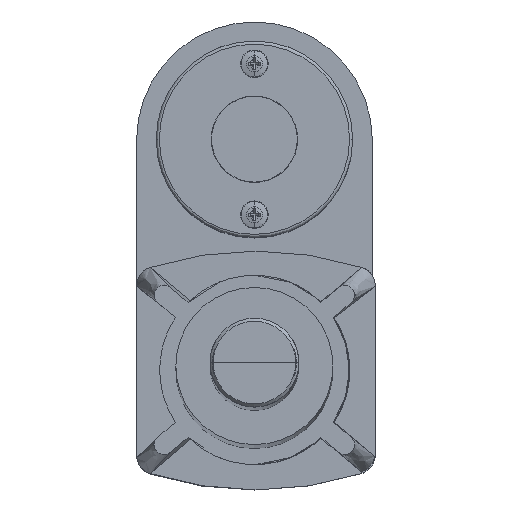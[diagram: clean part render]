
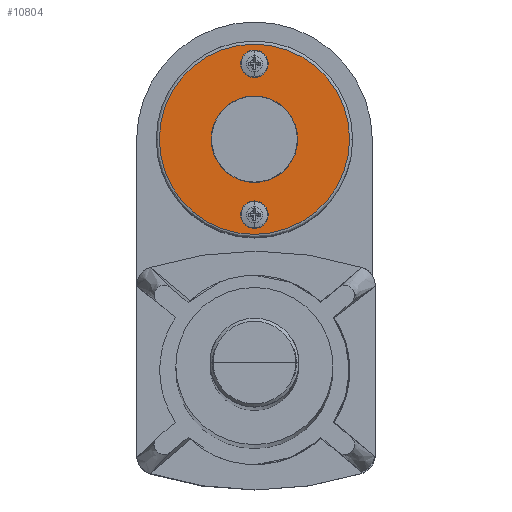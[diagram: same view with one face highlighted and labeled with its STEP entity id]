
A CAD part, top view. The second image highlights one B-rep face of the part: STEP entity #10804.
In plain terms, the highlighted planar face has unit normal (0, 0, 1).
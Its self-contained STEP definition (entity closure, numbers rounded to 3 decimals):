
#30 = FACE_BOUND ( 'NONE', #10805, .T. ) ;
#234 = CIRCLE ( 'NONE', #1786, 2.54 ) ;
#791 = CIRCLE ( 'NONE', #10399, 30.75 ) ;
#1010 = AXIS2_PLACEMENT_3D ( 'NONE', #9032, #3787, #8879 ) ;
#1716 = EDGE_LOOP ( 'NONE', ( #9338, #4264 ) ) ;
#1786 = AXIS2_PLACEMENT_3D ( 'NONE', #9023, #3930, #2246 ) ;
#2119 = DIRECTION ( 'NONE',  ( -1., 0., 0. ) ) ;
#2139 = CARTESIAN_POINT ( 'NONE',  ( 38.608, -31.638, 406.098 ) ) ;
#2246 = DIRECTION ( 'NONE',  ( -1., 0., 0. ) ) ;
#2269 = CARTESIAN_POINT ( 'NONE',  ( 38.608, -56.038, 406.098 ) ) ;
#2455 = CIRCLE ( 'NONE', #4642, 2.54 ) ;
#2812 = VERTEX_POINT ( 'NONE', #6111 ) ;
#2916 = ORIENTED_EDGE ( 'NONE', *, *, #9111, .F. ) ;
#2964 = ORIENTED_EDGE ( 'NONE', *, *, #9441, .F. ) ;
#3140 = CIRCLE ( 'NONE', #5278, 2.54 ) ;
#3506 = FACE_OUTER_BOUND ( 'NONE', #1716, .T. ) ;
#3523 = CIRCLE ( 'NONE', #1010, 2.54 ) ;
#3787 = DIRECTION ( 'NONE',  ( 0., 0., 1. ) ) ;
#3851 = DIRECTION ( 'NONE',  ( 0., 0., 1. ) ) ;
#3863 = VERTEX_POINT ( 'NONE', #7685 ) ;
#3870 = EDGE_LOOP ( 'NONE', ( #2964, #7995 ) ) ;
#3930 = DIRECTION ( 'NONE',  ( 0., 0., 1. ) ) ;
#4264 = ORIENTED_EDGE ( 'NONE', *, *, #6188, .T. ) ;
#4424 = VERTEX_POINT ( 'NONE', #11019 ) ;
#4642 = AXIS2_PLACEMENT_3D ( 'NONE', #8907, #9616, #7991 ) ;
#4990 = DIRECTION ( 'NONE',  ( -1., 0., 0. ) ) ;
#5278 = AXIS2_PLACEMENT_3D ( 'NONE', #2269, #5769, #4990 ) ;
#5530 = ORIENTED_EDGE ( 'NONE', *, *, #10196, .F. ) ;
#5593 = PLANE ( 'NONE',  #10788 ) ;
#5750 = CARTESIAN_POINT ( 'NONE',  ( 41.148, -7.238, 406.098 ) ) ;
#5769 = DIRECTION ( 'NONE',  ( 0., 0., 1. ) ) ;
#6111 = CARTESIAN_POINT ( 'NONE',  ( 36.068, -56.038, 406.098 ) ) ;
#6188 = EDGE_CURVE ( 'NONE', #7411, #4424, #791, .T. ) ;
#6240 = CARTESIAN_POINT ( 'NONE',  ( 38.608, -31.638, 406.098 ) ) ;
#6380 = VERTEX_POINT ( 'NONE', #5750 ) ;
#7213 = EDGE_CURVE ( 'NONE', #6380, #3863, #234, .T. ) ;
#7358 = FACE_BOUND ( 'NONE', #3870, .T. ) ;
#7411 = VERTEX_POINT ( 'NONE', #8361 ) ;
#7685 = CARTESIAN_POINT ( 'NONE',  ( 36.068, -7.238, 406.098 ) ) ;
#7991 = DIRECTION ( 'NONE',  ( -1., 0., 0. ) ) ;
#7993 = DIRECTION ( 'NONE',  ( 0., 0., 1. ) ) ;
#7995 = ORIENTED_EDGE ( 'NONE', *, *, #7213, .F. ) ;
#8002 = AXIS2_PLACEMENT_3D ( 'NONE', #9002, #10681, #2119 ) ;
#8190 = VERTEX_POINT ( 'NONE', #9355 ) ;
#8361 = CARTESIAN_POINT ( 'NONE',  ( 69.358, -31.638, 406.098 ) ) ;
#8879 = DIRECTION ( 'NONE',  ( -1., 0., 0. ) ) ;
#8907 = CARTESIAN_POINT ( 'NONE',  ( 38.608, -7.238, 406.098 ) ) ;
#9002 = CARTESIAN_POINT ( 'NONE',  ( 38.608, -31.638, 406.098 ) ) ;
#9023 = CARTESIAN_POINT ( 'NONE',  ( 38.608, -7.238, 406.098 ) ) ;
#9032 = CARTESIAN_POINT ( 'NONE',  ( 38.608, -56.038, 406.098 ) ) ;
#9094 = DIRECTION ( 'NONE',  ( -1., 0., 0. ) ) ;
#9111 = EDGE_CURVE ( 'NONE', #8190, #2812, #3140, .T. ) ;
#9338 = ORIENTED_EDGE ( 'NONE', *, *, #9813, .T. ) ;
#9355 = CARTESIAN_POINT ( 'NONE',  ( 41.148, -56.038, 406.098 ) ) ;
#9441 = EDGE_CURVE ( 'NONE', #3863, #6380, #2455, .T. ) ;
#9616 = DIRECTION ( 'NONE',  ( 0., 0., 1. ) ) ;
#9619 = DIRECTION ( 'NONE',  ( -1., 0., 0. ) ) ;
#9783 = CIRCLE ( 'NONE', #8002, 30.75 ) ;
#9813 = EDGE_CURVE ( 'NONE', #4424, #7411, #9783, .T. ) ;
#10196 = EDGE_CURVE ( 'NONE', #2812, #8190, #3523, .T. ) ;
#10399 = AXIS2_PLACEMENT_3D ( 'NONE', #6240, #7993, #9619 ) ;
#10681 = DIRECTION ( 'NONE',  ( 0., 0., 1. ) ) ;
#10788 = AXIS2_PLACEMENT_3D ( 'NONE', #2139, #3851, #9094 ) ;
#10804 = ADVANCED_FACE ( 'NONE', ( #30, #7358, #3506 ), #5593, .T. ) ;
#10805 = EDGE_LOOP ( 'NONE', ( #5530, #2916 ) ) ;
#11019 = CARTESIAN_POINT ( 'NONE',  ( 7.858, -31.638, 406.098 ) ) ;
